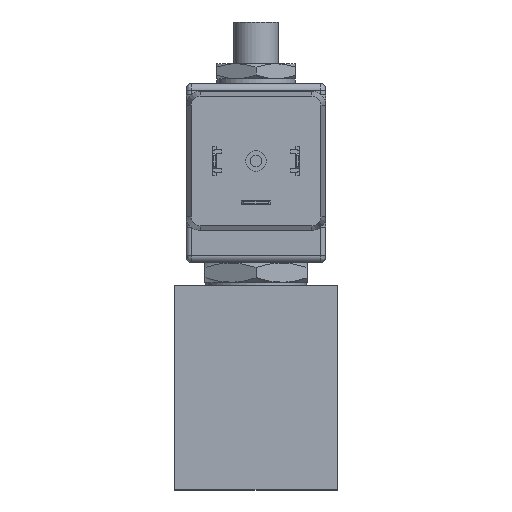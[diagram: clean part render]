
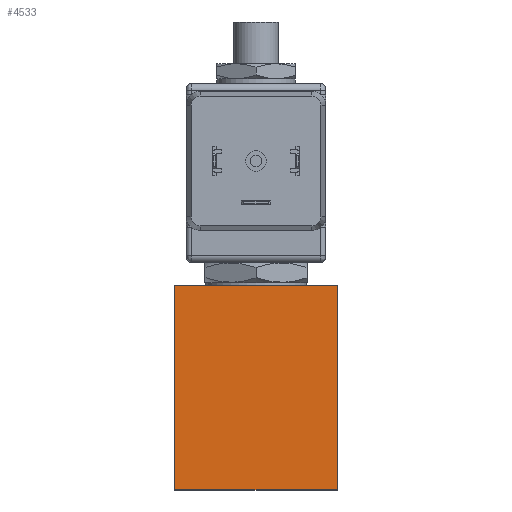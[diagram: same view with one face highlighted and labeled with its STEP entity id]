
A CAD part, left-side view. The second image highlights one B-rep face of the part: STEP entity #4533.
In plain terms, the highlighted planar face has unit normal (-1, 0, 0).
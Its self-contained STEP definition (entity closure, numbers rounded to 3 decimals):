
#165=LINE('',#6604,#599);
#170=LINE('',#6613,#604);
#173=LINE('',#6619,#607);
#176=LINE('',#6624,#610);
#599=VECTOR('',#5280,34.998);
#604=VECTOR('',#5287,43.999);
#607=VECTOR('',#5292,34.998);
#610=VECTOR('',#5297,43.999);
#1038=PLANE('',#4826);
#1313=FACE_OUTER_BOUND('',#1578,.T.);
#1578=EDGE_LOOP('',(#3199,#3200,#3201,#3202));
#2100=VERTEX_POINT('',#6601);
#2101=VERTEX_POINT('',#6603);
#2104=VERTEX_POINT('',#6611);
#2106=VERTEX_POINT('',#6617);
#2532=EDGE_CURVE('',#2100,#2101,#165,.T.);
#2537=EDGE_CURVE('',#2104,#2100,#170,.T.);
#2540=EDGE_CURVE('',#2106,#2104,#173,.T.);
#2543=EDGE_CURVE('',#2101,#2106,#176,.T.);
#3199=ORIENTED_EDGE('',*,*,#2543,.F.);
#3200=ORIENTED_EDGE('',*,*,#2532,.F.);
#3201=ORIENTED_EDGE('',*,*,#2537,.F.);
#3202=ORIENTED_EDGE('',*,*,#2540,.F.);
#4533=ADVANCED_FACE('',(#1313),#1038,.F.);
#4826=AXIS2_PLACEMENT_3D('',#6627,#5301,#5302);
#5280=DIRECTION('',(0.,1.,0.));
#5287=DIRECTION('',(0.,0.,-1.));
#5292=DIRECTION('',(0.,-1.,0.));
#5297=DIRECTION('',(0.,0.,1.));
#5301=DIRECTION('center_axis',(1.,0.,0.));
#5302=DIRECTION('ref_axis',(0.,0.,-1.));
#6601=CARTESIAN_POINT('',(-75.,-17.499,-34.999));
#6603=CARTESIAN_POINT('',(-75.,17.499,-34.999));
#6604=CARTESIAN_POINT('',(-75.,17.499,-34.999));
#6611=CARTESIAN_POINT('',(-75.,-17.499,9.));
#6613=CARTESIAN_POINT('',(-75.,-17.499,-34.999));
#6617=CARTESIAN_POINT('',(-75.,17.499,9.));
#6619=CARTESIAN_POINT('',(-75.,-17.499,9.));
#6624=CARTESIAN_POINT('',(-75.,17.499,9.));
#6627=CARTESIAN_POINT('Origin',(-75.,0.,-13.));
